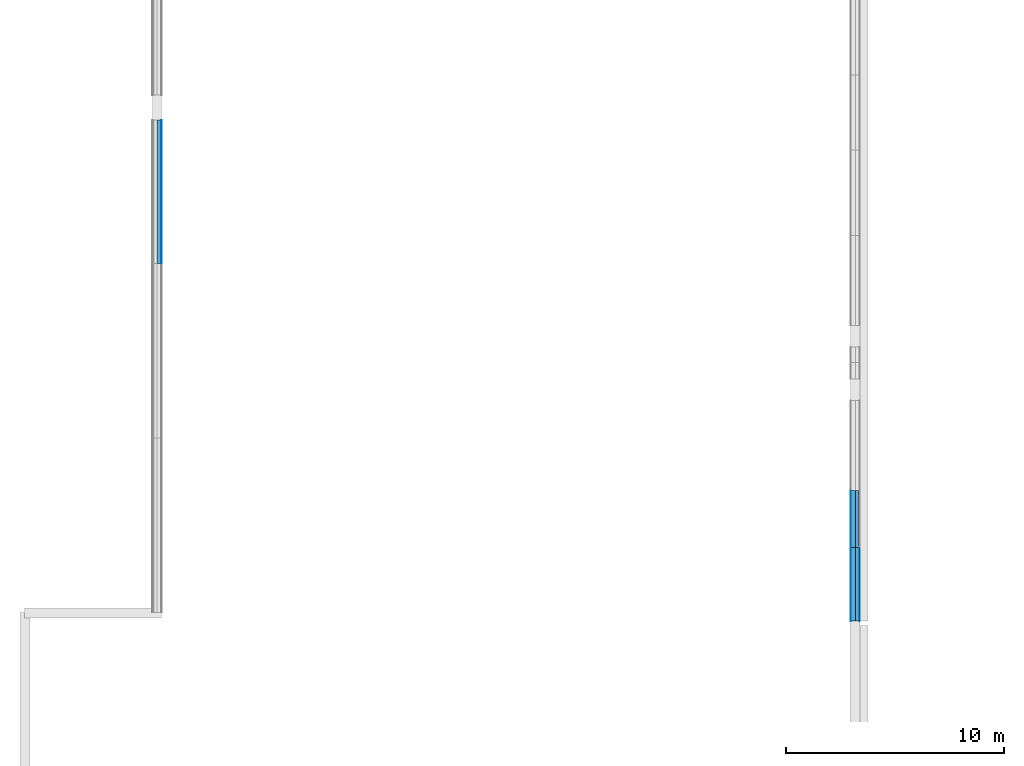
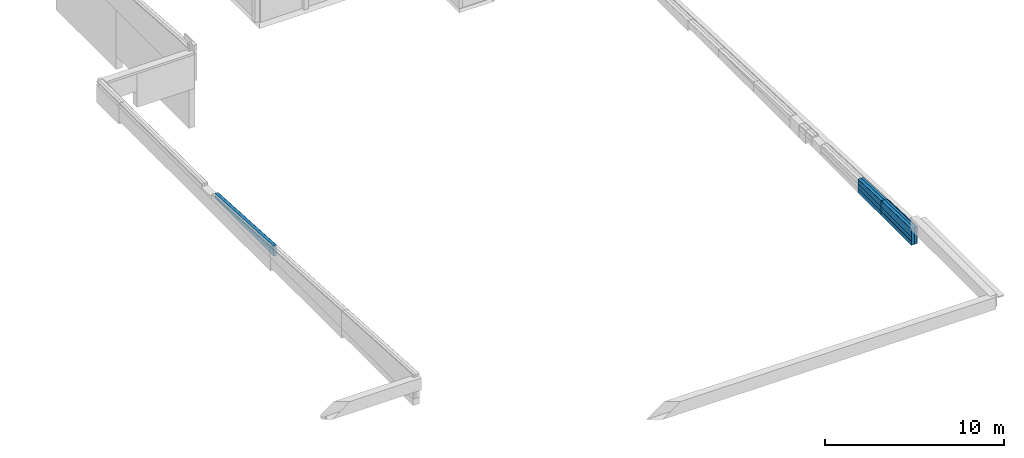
# One storey, part 7 of 17: 10 building element parts, 3 elements without a shape of their own.
"""IFC2X3 building model written with IfcOpenShell, lengths in millimetres."""

from ifc_helpers import new_model, entity, si_unit, converted_unit, derived_unit, money_unit, direction, frame, origin_with_axes, place, context, subcontext, project, spatial, polyline, outline, extrude, boolean, faceted_brep, material, type_object, element, aggregate, save


model = new_model("IFC2X3")

# Units and contexts
model_context = context("Model", 3, precision=0.01, world=origin_with_axes(), true_north=direction((0.0, 1.0)))
body_context = subcontext(model_context, "Body", "Model", "MODEL_VIEW")
ifc_project = project(units=[si_unit("LENGTHUNIT", "METRE", prefix="MILLI"), si_unit("AREAUNIT", "SQUARE_METRE"), si_unit("VOLUMEUNIT", "CUBIC_METRE"), converted_unit("PLANEANGLEUNIT", "DEGREE", entity("IfcPlaneAngleMeasure", 0.0174532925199), si_unit("PLANEANGLEUNIT", "RADIAN"), dimensions=[0, 0, 0, 0, 0, 0, 0]), si_unit("SOLIDANGLEUNIT", "STERADIAN"), money_unit("EUR"), converted_unit("TIMEUNIT", "Year", entity("IfcTimeMeasure", 31556926.0), si_unit("TIMEUNIT", "SECOND"), dimensions=[0, 0, 1, 0, 0, 0, 0]), si_unit("MASSUNIT", "GRAM", prefix="KILO"), si_unit("THERMODYNAMICTEMPERATUREUNIT", "DEGREE_CELSIUS"), si_unit("LUMINOUSINTENSITYUNIT", "LUMEN"), si_unit("ENERGYUNIT", "JOULE", prefix="MEGA"), derived_unit("THERMALCONDUCTANCEUNIT", [(si_unit("POWERUNIT", "WATT"), 1), (si_unit("LENGTHUNIT", "METRE"), -1), (si_unit("THERMODYNAMICTEMPERATUREUNIT", "KELVIN"), -1)]), derived_unit("SPECIFICHEATCAPACITYUNIT", [(si_unit("ENERGYUNIT", "JOULE"), 1), (si_unit("MASSUNIT", "GRAM", prefix="KILO"), -1), (si_unit("THERMODYNAMICTEMPERATUREUNIT", "KELVIN"), -1)]), derived_unit("MASSDENSITYUNIT", [(si_unit("MASSUNIT", "GRAM", prefix="KILO"), 1), (si_unit("VOLUMEUNIT", "CUBIC_METRE"), -1)])], contexts=[model_context])

# Site, building, storey
site_placement = place(None, origin_with_axes())
site = spatial("IfcSite", under=ifc_project, at=site_placement, Name="Puškini 31, Narva", CompositionType="ELEMENT")
building_placement = place(site_placement, origin_with_axes())
building = spatial("IfcBuilding", under=site, at=building_placement, Name="Narva Riigigümnaasium", CompositionType="ELEMENT")
storey_placement = place(building_placement, frame((0.0, 0.0, -6800.0), z_axis=(0.0, 0.0, 1.0), x_axis=(1.0, 0.0, 0.0)))
storey = spatial("IfcBuildingStorey", under=building, at=storey_placement, Name="0.korrus -6.8", CompositionType="ELEMENT", Elevation=-6800.0)

# Wall, building element parts
wall_type = type_object("IfcWallType", Name="G-VS-02 420", PredefinedType="NOTDEFINED")
wall_1_placement = place(storey_placement, frame((54200.000001, 159000.0, 4880.0), z_axis=(0.0, 0.0, 1.0), x_axis=(0.0, 1.0, 0.0)))
wall_1 = element("IfcWall", 1, at=wall_1_placement, inside=storey, type_object=wall_type, Name="Sisesein")
ifc_material_1 = material(Name="Salto-siseviimistlus")
building_element_part_1_placement = place(wall_1_placement, origin_with_axes())
building_element_part_1 = element("IfcBuildingElementPart", 2, at=building_element_part_1_placement, material=ifc_material_1, Name="Salto-siseviimistlus", context=body_context, shape_type="CSG", body=[
    boolean("DIFFERENCE", boolean("DIFFERENCE", boolean("DIFFERENCE", boolean("DIFFERENCE", boolean("DIFFERENCE", boolean("DIFFERENCE", extrude(outline(polyline([(0.0, 200.0), (3385.15127183, 200.0), (3385.15127183, 210.0), (0.0, 210.0), (0.0, 200.0)])), origin_with_axes(), (0.0, 0.0, 1.0), 1170.24353957), faceted_brep([(3385.15127183, 200.0, 590.0), (0.0, 200.0, 590.0), (0.0, 200.0, 290.0), (3385.15127183, 200.0, 290.0), (3385.15127183, 210.0, 590.0), (6.13368911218e-07, 210.0, 590.0), (6.13368911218e-07, 210.0, 290.0), (3385.15127183, 210.0, 290.0)], [[[0, 1, 2, 3]], [[1, 0, 4, 5]], [[1, 5, 6, 2]], [[7, 3, 2, 6]], [[4, 0, 3, 7]], [[5, 4, 7, 6]]])), faceted_brep([(0.0, 200.0, 1136.49486358), (3385.15127183, 200.0, 1006.91214492), (3385.15127183, 200.0, 1170.24353957), (0.0, 200.0, 1170.24353957), (3385.15127183, 210.0, 1006.91214492), (3.56692453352e-08, 210.0, 1136.49486357), (3385.15127183, 210.0, 1170.24353957), (0.0, 210.0, 1170.24353957)], [[[0, 1, 2, 3]], [[4, 1, 0, 5]], [[1, 4, 6, 2]], [[7, 3, 2, 6]], [[5, 0, 3, 7]], [[4, 5, 7, 6]]])), faceted_brep([(0.0, 0.0, 1136.49486358), (3385.15127183, 0.0, 1006.91214492), (3385.15127183, 0.0, 1170.24353957), (0.0, 0.0, 1170.24353957), (3385.15127183, 200.0, 1006.91214492), (0.0, 200.0, 1136.49486358), (3385.15127183, 200.0, 1170.24353957), (0.0, 200.0, 1170.24353957)], [[[0, 1, 2, 3]], [[4, 1, 0, 5]], [[1, 4, 6, 2]], [[7, 3, 2, 6]], [[5, 0, 3, 7]], [[4, 5, 7, 6]]])), faceted_brep([(0.0, -150.0, 1136.49486358), (3385.15127183, -150.0, 1006.91214492), (3385.15127183, -150.0, 1170.24353957), (0.0, -150.0, 1170.24353957), (3385.15127183, 0.0, 1006.91214492), (0.0, 0.0, 1136.49486358), (3385.15127183, 0.0, 1170.24353957), (0.0, 0.0, 1170.24353957)], [[[0, 1, 2, 3]], [[4, 1, 0, 5]], [[1, 4, 6, 2]], [[7, 3, 2, 6]], [[5, 0, 3, 7]], [[4, 5, 7, 6]]])), faceted_brep([(0.0, -200.0, 1136.49486358), (3385.15127183, -200.0, 1006.91214492), (3385.15127183, -200.0, 1170.24353957), (0.0, -200.0, 1170.24353957), (3385.15127183, -150.0, 1006.91214492), (0.0, -150.0, 1136.49486358), (3385.15127183, -150.0, 1170.24353957), (0.0, -150.0, 1170.24353957)], [[[0, 1, 2, 3]], [[4, 1, 0, 5]], [[1, 4, 6, 2]], [[7, 3, 2, 6]], [[5, 0, 3, 7]], [[4, 5, 7, 6]]])), faceted_brep([(0.0, -210.0, 1136.49486358), (3385.15127183, -210.0, 1006.91214492), (3385.15127183, -210.0, 1170.24353957), (0.0, -210.0, 1170.24353957), (3385.15127183, -200.0, 1006.91214492), (0.0, -200.0, 1136.49486358), (3385.15127183, -200.0, 1170.24353957), (0.0, -200.0, 1170.24353957)], [[[0, 1, 2, 3]], [[4, 1, 0, 5]], [[1, 4, 6, 2]], [[7, 3, 2, 6]], [[5, 0, 3, 7]], [[4, 5, 7, 6]]])),
])
ifc_material_2 = material(Name="Betoon element")
building_element_part_2_placement = place(wall_1_placement, origin_with_axes())
building_element_part_2 = element("IfcBuildingElementPart", 3, at=building_element_part_2_placement, material=ifc_material_2, Name="Betoon element", context=body_context, shape_type="CSG", body=[
    boolean("DIFFERENCE", boolean("DIFFERENCE", boolean("DIFFERENCE", boolean("DIFFERENCE", boolean("DIFFERENCE", boolean("DIFFERENCE", extrude(outline(polyline([(0.0, 0.0), (3385.15127183, 0.0), (3385.15127183, 200.0), (0.0, 200.0), (0.0, 0.0)])), origin_with_axes(), (0.0, 0.0, 1.0), 1170.24353957), faceted_brep([(3385.15127183, 200.0, 590.0), (0.0, 200.0, 590.0), (0.0, 200.0, 290.0), (3385.15127183, 200.0, 290.0), (3385.15127183, 210.0, 590.0), (6.13368911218e-07, 210.0, 590.0), (6.13368911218e-07, 210.0, 290.0), (3385.15127183, 210.0, 290.0)], [[[0, 1, 2, 3]], [[1, 0, 4, 5]], [[1, 5, 6, 2]], [[7, 3, 2, 6]], [[4, 0, 3, 7]], [[5, 4, 7, 6]]])), faceted_brep([(0.0, 200.0, 1136.49486358), (3385.15127183, 200.0, 1006.91214492), (3385.15127183, 200.0, 1170.24353957), (0.0, 200.0, 1170.24353957), (3385.15127183, 210.0, 1006.91214492), (3.56692453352e-08, 210.0, 1136.49486357), (3385.15127183, 210.0, 1170.24353957), (0.0, 210.0, 1170.24353957)], [[[0, 1, 2, 3]], [[4, 1, 0, 5]], [[1, 4, 6, 2]], [[7, 3, 2, 6]], [[5, 0, 3, 7]], [[4, 5, 7, 6]]])), faceted_brep([(0.0, 0.0, 1136.49486358), (3385.15127183, 0.0, 1006.91214492), (3385.15127183, 0.0, 1170.24353957), (0.0, 0.0, 1170.24353957), (3385.15127183, 200.0, 1006.91214492), (0.0, 200.0, 1136.49486358), (3385.15127183, 200.0, 1170.24353957), (0.0, 200.0, 1170.24353957)], [[[0, 1, 2, 3]], [[4, 1, 0, 5]], [[1, 4, 6, 2]], [[7, 3, 2, 6]], [[5, 0, 3, 7]], [[4, 5, 7, 6]]])), faceted_brep([(0.0, -150.0, 1136.49486358), (3385.15127183, -150.0, 1006.91214492), (3385.15127183, -150.0, 1170.24353957), (0.0, -150.0, 1170.24353957), (3385.15127183, 0.0, 1006.91214492), (0.0, 0.0, 1136.49486358), (3385.15127183, 0.0, 1170.24353957), (0.0, 0.0, 1170.24353957)], [[[0, 1, 2, 3]], [[4, 1, 0, 5]], [[1, 4, 6, 2]], [[7, 3, 2, 6]], [[5, 0, 3, 7]], [[4, 5, 7, 6]]])), faceted_brep([(0.0, -200.0, 1136.49486358), (3385.15127183, -200.0, 1006.91214492), (3385.15127183, -200.0, 1170.24353957), (0.0, -200.0, 1170.24353957), (3385.15127183, -150.0, 1006.91214492), (0.0, -150.0, 1136.49486358), (3385.15127183, -150.0, 1170.24353957), (0.0, -150.0, 1170.24353957)], [[[0, 1, 2, 3]], [[4, 1, 0, 5]], [[1, 4, 6, 2]], [[7, 3, 2, 6]], [[5, 0, 3, 7]], [[4, 5, 7, 6]]])), faceted_brep([(0.0, -210.0, 1136.49486358), (3385.15127183, -210.0, 1006.91214492), (3385.15127183, -210.0, 1170.24353957), (0.0, -210.0, 1170.24353957), (3385.15127183, -200.0, 1006.91214492), (0.0, -200.0, 1136.49486358), (3385.15127183, -200.0, 1170.24353957), (0.0, -200.0, 1170.24353957)], [[[0, 1, 2, 3]], [[4, 1, 0, 5]], [[1, 4, 6, 2]], [[7, 3, 2, 6]], [[5, 0, 3, 7]], [[4, 5, 7, 6]]])),
])
ifc_material_3 = material(Name="Salto-PIR soojustus")
building_element_part_3_placement = place(wall_1_placement, origin_with_axes())
building_element_part_3 = element("IfcBuildingElementPart", 4, at=building_element_part_3_placement, material=ifc_material_3, Name="Salto-PIR soojustus", context=body_context, shape_type="CSG", body=[
    boolean("DIFFERENCE", boolean("DIFFERENCE", boolean("DIFFERENCE", boolean("DIFFERENCE", boolean("DIFFERENCE", boolean("DIFFERENCE", extrude(outline(polyline([(0.0, -150.0), (3385.15127183, -150.0), (3385.15127183, 0.0), (0.0, 0.0), (0.0, -150.0)])), origin_with_axes(), (0.0, 0.0, 1.0), 1170.24353957), faceted_brep([(3385.15127183, 200.0, 590.0), (0.0, 200.0, 590.0), (0.0, 200.0, 290.0), (3385.15127183, 200.0, 290.0), (3385.15127183, 210.0, 590.0), (6.13368911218e-07, 210.0, 590.0), (6.13368911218e-07, 210.0, 290.0), (3385.15127183, 210.0, 290.0)], [[[0, 1, 2, 3]], [[1, 0, 4, 5]], [[1, 5, 6, 2]], [[7, 3, 2, 6]], [[4, 0, 3, 7]], [[5, 4, 7, 6]]])), faceted_brep([(0.0, 200.0, 1136.49486358), (3385.15127183, 200.0, 1006.91214492), (3385.15127183, 200.0, 1170.24353957), (0.0, 200.0, 1170.24353957), (3385.15127183, 210.0, 1006.91214492), (3.56692453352e-08, 210.0, 1136.49486357), (3385.15127183, 210.0, 1170.24353957), (0.0, 210.0, 1170.24353957)], [[[0, 1, 2, 3]], [[4, 1, 0, 5]], [[1, 4, 6, 2]], [[7, 3, 2, 6]], [[5, 0, 3, 7]], [[4, 5, 7, 6]]])), faceted_brep([(0.0, 0.0, 1136.49486358), (3385.15127183, 0.0, 1006.91214492), (3385.15127183, 0.0, 1170.24353957), (0.0, 0.0, 1170.24353957), (3385.15127183, 200.0, 1006.91214492), (0.0, 200.0, 1136.49486358), (3385.15127183, 200.0, 1170.24353957), (0.0, 200.0, 1170.24353957)], [[[0, 1, 2, 3]], [[4, 1, 0, 5]], [[1, 4, 6, 2]], [[7, 3, 2, 6]], [[5, 0, 3, 7]], [[4, 5, 7, 6]]])), faceted_brep([(0.0, -150.0, 1136.49486358), (3385.15127183, -150.0, 1006.91214492), (3385.15127183, -150.0, 1170.24353957), (0.0, -150.0, 1170.24353957), (3385.15127183, 0.0, 1006.91214492), (0.0, 0.0, 1136.49486358), (3385.15127183, 0.0, 1170.24353957), (0.0, 0.0, 1170.24353957)], [[[0, 1, 2, 3]], [[4, 1, 0, 5]], [[1, 4, 6, 2]], [[7, 3, 2, 6]], [[5, 0, 3, 7]], [[4, 5, 7, 6]]])), faceted_brep([(0.0, -200.0, 1136.49486358), (3385.15127183, -200.0, 1006.91214492), (3385.15127183, -200.0, 1170.24353957), (0.0, -200.0, 1170.24353957), (3385.15127183, -150.0, 1006.91214492), (0.0, -150.0, 1136.49486358), (3385.15127183, -150.0, 1170.24353957), (0.0, -150.0, 1170.24353957)], [[[0, 1, 2, 3]], [[4, 1, 0, 5]], [[1, 4, 6, 2]], [[7, 3, 2, 6]], [[5, 0, 3, 7]], [[4, 5, 7, 6]]])), faceted_brep([(0.0, -210.0, 1136.49486358), (3385.15127183, -210.0, 1006.91214492), (3385.15127183, -210.0, 1170.24353957), (0.0, -210.0, 1170.24353957), (3385.15127183, -200.0, 1006.91214492), (0.0, -200.0, 1136.49486358), (3385.15127183, -200.0, 1170.24353957), (0.0, -200.0, 1170.24353957)], [[[0, 1, 2, 3]], [[4, 1, 0, 5]], [[1, 4, 6, 2]], [[7, 3, 2, 6]], [[5, 0, 3, 7]], [[4, 5, 7, 6]]])),
])
building_element_part_4_placement = place(wall_1_placement, origin_with_axes())
building_element_part_4 = element("IfcBuildingElementPart", 5, at=building_element_part_4_placement, material=ifc_material_3, Name="Salto-PIR soojustus", context=body_context, shape_type="CSG", body=[
    boolean("DIFFERENCE", boolean("DIFFERENCE", boolean("DIFFERENCE", boolean("DIFFERENCE", boolean("DIFFERENCE", boolean("DIFFERENCE", extrude(outline(polyline([(0.0, -200.0), (3385.15127183, -200.0), (3385.15127183, -150.0), (0.0, -150.0), (0.0, -200.0)])), origin_with_axes(), (0.0, 0.0, 1.0), 1170.24353957), faceted_brep([(3385.15127183, 200.0, 590.0), (0.0, 200.0, 590.0), (0.0, 200.0, 290.0), (3385.15127183, 200.0, 290.0), (3385.15127183, 210.0, 590.0), (6.13368911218e-07, 210.0, 590.0), (6.13368911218e-07, 210.0, 290.0), (3385.15127183, 210.0, 290.0)], [[[0, 1, 2, 3]], [[1, 0, 4, 5]], [[1, 5, 6, 2]], [[7, 3, 2, 6]], [[4, 0, 3, 7]], [[5, 4, 7, 6]]])), faceted_brep([(0.0, 200.0, 1136.49486358), (3385.15127183, 200.0, 1006.91214492), (3385.15127183, 200.0, 1170.24353957), (0.0, 200.0, 1170.24353957), (3385.15127183, 210.0, 1006.91214492), (3.56692453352e-08, 210.0, 1136.49486357), (3385.15127183, 210.0, 1170.24353957), (0.0, 210.0, 1170.24353957)], [[[0, 1, 2, 3]], [[4, 1, 0, 5]], [[1, 4, 6, 2]], [[7, 3, 2, 6]], [[5, 0, 3, 7]], [[4, 5, 7, 6]]])), faceted_brep([(0.0, 0.0, 1136.49486358), (3385.15127183, 0.0, 1006.91214492), (3385.15127183, 0.0, 1170.24353957), (0.0, 0.0, 1170.24353957), (3385.15127183, 200.0, 1006.91214492), (0.0, 200.0, 1136.49486358), (3385.15127183, 200.0, 1170.24353957), (0.0, 200.0, 1170.24353957)], [[[0, 1, 2, 3]], [[4, 1, 0, 5]], [[1, 4, 6, 2]], [[7, 3, 2, 6]], [[5, 0, 3, 7]], [[4, 5, 7, 6]]])), faceted_brep([(0.0, -150.0, 1136.49486358), (3385.15127183, -150.0, 1006.91214492), (3385.15127183, -150.0, 1170.24353957), (0.0, -150.0, 1170.24353957), (3385.15127183, 0.0, 1006.91214492), (0.0, 0.0, 1136.49486358), (3385.15127183, 0.0, 1170.24353957), (0.0, 0.0, 1170.24353957)], [[[0, 1, 2, 3]], [[4, 1, 0, 5]], [[1, 4, 6, 2]], [[7, 3, 2, 6]], [[5, 0, 3, 7]], [[4, 5, 7, 6]]])), faceted_brep([(0.0, -200.0, 1136.49486358), (3385.15127183, -200.0, 1006.91214492), (3385.15127183, -200.0, 1170.24353957), (0.0, -200.0, 1170.24353957), (3385.15127183, -150.0, 1006.91214492), (0.0, -150.0, 1136.49486358), (3385.15127183, -150.0, 1170.24353957), (0.0, -150.0, 1170.24353957)], [[[0, 1, 2, 3]], [[4, 1, 0, 5]], [[1, 4, 6, 2]], [[7, 3, 2, 6]], [[5, 0, 3, 7]], [[4, 5, 7, 6]]])), faceted_brep([(0.0, -210.0, 1136.49486358), (3385.15127183, -210.0, 1006.91214492), (3385.15127183, -210.0, 1170.24353957), (0.0, -210.0, 1170.24353957), (3385.15127183, -200.0, 1006.91214492), (0.0, -200.0, 1136.49486358), (3385.15127183, -200.0, 1170.24353957), (0.0, -200.0, 1170.24353957)], [[[0, 1, 2, 3]], [[4, 1, 0, 5]], [[1, 4, 6, 2]], [[7, 3, 2, 6]], [[5, 0, 3, 7]], [[4, 5, 7, 6]]])),
])
ifc_material_4 = material(Name="Krohv")
building_element_part_5_placement = place(wall_1_placement, origin_with_axes())
building_element_part_5 = element("IfcBuildingElementPart", 6, at=building_element_part_5_placement, material=ifc_material_4, Name="Krohv", context=body_context, shape_type="CSG", body=[
    boolean("DIFFERENCE", boolean("DIFFERENCE", boolean("DIFFERENCE", boolean("DIFFERENCE", boolean("DIFFERENCE", boolean("DIFFERENCE", extrude(outline(polyline([(0.0, -210.0), (3385.15127183, -210.0), (3385.15127183, -200.0), (0.0, -200.0), (0.0, -210.0)])), origin_with_axes(), (0.0, 0.0, 1.0), 1170.24353957), faceted_brep([(3385.15127183, 200.0, 590.0), (0.0, 200.0, 590.0), (0.0, 200.0, 290.0), (3385.15127183, 200.0, 290.0), (3385.15127183, 210.0, 590.0), (6.13368911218e-07, 210.0, 590.0), (6.13368911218e-07, 210.0, 290.0), (3385.15127183, 210.0, 290.0)], [[[0, 1, 2, 3]], [[1, 0, 4, 5]], [[1, 5, 6, 2]], [[7, 3, 2, 6]], [[4, 0, 3, 7]], [[5, 4, 7, 6]]])), faceted_brep([(0.0, 200.0, 1136.49486358), (3385.15127183, 200.0, 1006.91214492), (3385.15127183, 200.0, 1170.24353957), (0.0, 200.0, 1170.24353957), (3385.15127183, 210.0, 1006.91214492), (3.56692453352e-08, 210.0, 1136.49486357), (3385.15127183, 210.0, 1170.24353957), (0.0, 210.0, 1170.24353957)], [[[0, 1, 2, 3]], [[4, 1, 0, 5]], [[1, 4, 6, 2]], [[7, 3, 2, 6]], [[5, 0, 3, 7]], [[4, 5, 7, 6]]])), faceted_brep([(0.0, 0.0, 1136.49486358), (3385.15127183, 0.0, 1006.91214492), (3385.15127183, 0.0, 1170.24353957), (0.0, 0.0, 1170.24353957), (3385.15127183, 200.0, 1006.91214492), (0.0, 200.0, 1136.49486358), (3385.15127183, 200.0, 1170.24353957), (0.0, 200.0, 1170.24353957)], [[[0, 1, 2, 3]], [[4, 1, 0, 5]], [[1, 4, 6, 2]], [[7, 3, 2, 6]], [[5, 0, 3, 7]], [[4, 5, 7, 6]]])), faceted_brep([(0.0, -150.0, 1136.49486358), (3385.15127183, -150.0, 1006.91214492), (3385.15127183, -150.0, 1170.24353957), (0.0, -150.0, 1170.24353957), (3385.15127183, 0.0, 1006.91214492), (0.0, 0.0, 1136.49486358), (3385.15127183, 0.0, 1170.24353957), (0.0, 0.0, 1170.24353957)], [[[0, 1, 2, 3]], [[4, 1, 0, 5]], [[1, 4, 6, 2]], [[7, 3, 2, 6]], [[5, 0, 3, 7]], [[4, 5, 7, 6]]])), faceted_brep([(0.0, -200.0, 1136.49486358), (3385.15127183, -200.0, 1006.91214492), (3385.15127183, -200.0, 1170.24353957), (0.0, -200.0, 1170.24353957), (3385.15127183, -150.0, 1006.91214492), (0.0, -150.0, 1136.49486358), (3385.15127183, -150.0, 1170.24353957), (0.0, -150.0, 1170.24353957)], [[[0, 1, 2, 3]], [[4, 1, 0, 5]], [[1, 4, 6, 2]], [[7, 3, 2, 6]], [[5, 0, 3, 7]], [[4, 5, 7, 6]]])), faceted_brep([(0.0, -210.0, 1136.49486358), (3385.15127183, -210.0, 1006.91214492), (3385.15127183, -210.0, 1170.24353957), (0.0, -210.0, 1170.24353957), (3385.15127183, -200.0, 1006.91214492), (0.0, -200.0, 1136.49486358), (3385.15127183, -200.0, 1170.24353957), (0.0, -200.0, 1170.24353957)], [[[0, 1, 2, 3]], [[4, 1, 0, 5]], [[1, 4, 6, 2]], [[7, 3, 2, 6]], [[5, 0, 3, 7]], [[4, 5, 7, 6]]])),
])
aggregate(wall_1, [building_element_part_1, building_element_part_2, building_element_part_3, building_element_part_4, building_element_part_5])

wall_2_placement = place(storey_placement, frame((54200.000001, 164985.151272, 4880.0), z_axis=(0.0, 0.0, 1.0), x_axis=(0.0, -1.0, 0.0)))
wall_2 = element("IfcWall", 7, at=wall_2_placement, inside=storey, type_object=wall_type, Name="Sisesein")
building_element_part_6_placement = place(wall_2_placement, origin_with_axes())
building_element_part_6 = element("IfcBuildingElementPart", 8, at=building_element_part_6_placement, material=ifc_material_1, Name="Salto-siseviimistlus", context=body_context, shape_type="CSG", body=[
    boolean("DIFFERENCE", boolean("DIFFERENCE", boolean("DIFFERENCE", boolean("DIFFERENCE", boolean("DIFFERENCE", boolean("DIFFERENCE", extrude(outline(polyline([(0.0, -210.0), (2600.0, -210.0), (2600.0, -200.0), (0.0, -200.0), (0.0, -210.0)])), origin_with_axes(), (0.0, 0.0, 1.0), 1045.10193144), faceted_brep([(0.0, -200.0, 590.0), (2600.0, -200.0, 590.0), (2600.0, -200.0, 290.0), (0.0, -200.0, 290.0), (0.0, -210.0, 590.0), (2600.0, -210.0, 590.0), (2600.0, -210.0, 290.0), (0.0, -210.0, 290.0)], [[[0, 1, 2, 3]], [[1, 0, 4, 5]], [[1, 5, 6, 2]], [[7, 3, 2, 6]], [[4, 0, 3, 7]], [[5, 4, 7, 6]]])), faceted_brep([(2600.0, -200.0, 1006.91214492), (0.0, -200.0, 907.384814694), (0.0, -200.0, 1045.10193144), (2600.0, -200.0, 1045.10193144), (0.0, -210.0, 907.384814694), (2600.0, -210.0, 1006.91214492), (0.0, -210.0, 1045.10193144), (2600.0, -210.0, 1045.10193144)], [[[0, 1, 2, 3]], [[4, 1, 0, 5]], [[1, 4, 6, 2]], [[2, 6, 7, 3]], [[5, 0, 3, 7]], [[4, 5, 7, 6]]])), faceted_brep([(2600.0, 0.0, 1006.91214492), (0.0, 0.0, 907.384814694), (0.0, 0.0, 1045.10193144), (2600.0, 0.0, 1045.10193144), (0.0, -200.0, 907.384814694), (2600.0, -200.0, 1006.91214492), (0.0, -200.0, 1045.10193144), (2600.0, -200.0, 1045.10193144)], [[[0, 1, 2, 3]], [[4, 1, 0, 5]], [[1, 4, 6, 2]], [[2, 6, 7, 3]], [[5, 0, 3, 7]], [[4, 5, 7, 6]]])), faceted_brep([(2600.0, 150.0, 1006.91214492), (0.0, 150.0, 907.384814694), (0.0, 150.0, 1045.10193144), (2600.0, 150.0, 1045.10193144), (0.0, 0.0, 907.384814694), (2600.0, 0.0, 1006.91214492), (0.0, 0.0, 1045.10193144), (2600.0, 0.0, 1045.10193144)], [[[0, 1, 2, 3]], [[4, 1, 0, 5]], [[1, 4, 6, 2]], [[2, 6, 7, 3]], [[5, 0, 3, 7]], [[4, 5, 7, 6]]])), faceted_brep([(2600.0, 200.0, 1006.91214492), (0.0, 200.0, 907.384814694), (0.0, 200.0, 1045.10193144), (2600.0, 200.0, 1045.10193144), (0.0, 150.0, 907.384814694), (2600.0, 150.0, 1006.91214492), (0.0, 150.0, 1045.10193144), (2600.0, 150.0, 1045.10193144)], [[[0, 1, 2, 3]], [[4, 1, 0, 5]], [[1, 4, 6, 2]], [[2, 6, 7, 3]], [[5, 0, 3, 7]], [[4, 5, 7, 6]]])), faceted_brep([(2600.0, 210.0, 1006.91214492), (0.0, 210.0, 907.384814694), (0.0, 210.0, 1045.10193144), (2600.0, 210.0, 1045.10193144), (0.0, 200.0, 907.384814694), (2600.0, 200.0, 1006.91214492), (0.0, 200.0, 1045.10193144), (2600.0, 200.0, 1045.10193144)], [[[0, 1, 2, 3]], [[4, 1, 0, 5]], [[1, 4, 6, 2]], [[2, 6, 7, 3]], [[5, 0, 3, 7]], [[4, 5, 7, 6]]])),
])
building_element_part_7_placement = place(wall_2_placement, origin_with_axes())
building_element_part_7 = element("IfcBuildingElementPart", 9, at=building_element_part_7_placement, material=ifc_material_2, Name="Betoon element", context=body_context, shape_type="CSG", body=[
    boolean("DIFFERENCE", boolean("DIFFERENCE", boolean("DIFFERENCE", boolean("DIFFERENCE", boolean("DIFFERENCE", boolean("DIFFERENCE", extrude(outline(polyline([(0.0, -200.0), (2600.0, -200.0), (2600.0, 0.0), (0.0, 0.0), (0.0, -200.0)])), origin_with_axes(), (0.0, 0.0, 1.0), 1045.10193144), faceted_brep([(0.0, -200.0, 590.0), (2600.0, -200.0, 590.0), (2600.0, -200.0, 290.0), (0.0, -200.0, 290.0), (0.0, -210.0, 590.0), (2600.0, -210.0, 590.0), (2600.0, -210.0, 290.0), (0.0, -210.0, 290.0)], [[[0, 1, 2, 3]], [[1, 0, 4, 5]], [[1, 5, 6, 2]], [[7, 3, 2, 6]], [[4, 0, 3, 7]], [[5, 4, 7, 6]]])), faceted_brep([(2600.0, -200.0, 1006.91214492), (0.0, -200.0, 907.384814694), (0.0, -200.0, 1045.10193144), (2600.0, -200.0, 1045.10193144), (0.0, -210.0, 907.384814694), (2600.0, -210.0, 1006.91214492), (0.0, -210.0, 1045.10193144), (2600.0, -210.0, 1045.10193144)], [[[0, 1, 2, 3]], [[4, 1, 0, 5]], [[1, 4, 6, 2]], [[2, 6, 7, 3]], [[5, 0, 3, 7]], [[4, 5, 7, 6]]])), faceted_brep([(2600.0, 0.0, 1006.91214492), (0.0, 0.0, 907.384814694), (0.0, 0.0, 1045.10193144), (2600.0, 0.0, 1045.10193144), (0.0, -200.0, 907.384814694), (2600.0, -200.0, 1006.91214492), (0.0, -200.0, 1045.10193144), (2600.0, -200.0, 1045.10193144)], [[[0, 1, 2, 3]], [[4, 1, 0, 5]], [[1, 4, 6, 2]], [[2, 6, 7, 3]], [[5, 0, 3, 7]], [[4, 5, 7, 6]]])), faceted_brep([(2600.0, 150.0, 1006.91214492), (0.0, 150.0, 907.384814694), (0.0, 150.0, 1045.10193144), (2600.0, 150.0, 1045.10193144), (0.0, 0.0, 907.384814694), (2600.0, 0.0, 1006.91214492), (0.0, 0.0, 1045.10193144), (2600.0, 0.0, 1045.10193144)], [[[0, 1, 2, 3]], [[4, 1, 0, 5]], [[1, 4, 6, 2]], [[2, 6, 7, 3]], [[5, 0, 3, 7]], [[4, 5, 7, 6]]])), faceted_brep([(2600.0, 200.0, 1006.91214492), (0.0, 200.0, 907.384814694), (0.0, 200.0, 1045.10193144), (2600.0, 200.0, 1045.10193144), (0.0, 150.0, 907.384814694), (2600.0, 150.0, 1006.91214492), (0.0, 150.0, 1045.10193144), (2600.0, 150.0, 1045.10193144)], [[[0, 1, 2, 3]], [[4, 1, 0, 5]], [[1, 4, 6, 2]], [[2, 6, 7, 3]], [[5, 0, 3, 7]], [[4, 5, 7, 6]]])), faceted_brep([(2600.0, 210.0, 1006.91214492), (0.0, 210.0, 907.384814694), (0.0, 210.0, 1045.10193144), (2600.0, 210.0, 1045.10193144), (0.0, 200.0, 907.384814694), (2600.0, 200.0, 1006.91214492), (0.0, 200.0, 1045.10193144), (2600.0, 200.0, 1045.10193144)], [[[0, 1, 2, 3]], [[4, 1, 0, 5]], [[1, 4, 6, 2]], [[2, 6, 7, 3]], [[5, 0, 3, 7]], [[4, 5, 7, 6]]])),
])
building_element_part_8_placement = place(wall_2_placement, origin_with_axes())
building_element_part_8 = element("IfcBuildingElementPart", 10, at=building_element_part_8_placement, material=ifc_material_3, Name="Salto-PIR soojustus", context=body_context, shape_type="CSG", body=[
    boolean("DIFFERENCE", boolean("DIFFERENCE", boolean("DIFFERENCE", boolean("DIFFERENCE", boolean("DIFFERENCE", boolean("DIFFERENCE", extrude(outline(polyline([(0.0, 0.0), (2600.0, 0.0), (2600.0, 150.0), (0.0, 150.0), (0.0, 0.0)])), origin_with_axes(), (0.0, 0.0, 1.0), 1045.10193144), faceted_brep([(0.0, -200.0, 590.0), (2600.0, -200.0, 590.0), (2600.0, -200.0, 290.0), (0.0, -200.0, 290.0), (0.0, -210.0, 590.0), (2600.0, -210.0, 590.0), (2600.0, -210.0, 290.0), (0.0, -210.0, 290.0)], [[[0, 1, 2, 3]], [[1, 0, 4, 5]], [[1, 5, 6, 2]], [[7, 3, 2, 6]], [[4, 0, 3, 7]], [[5, 4, 7, 6]]])), faceted_brep([(2600.0, -200.0, 1006.91214492), (0.0, -200.0, 907.384814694), (0.0, -200.0, 1045.10193144), (2600.0, -200.0, 1045.10193144), (0.0, -210.0, 907.384814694), (2600.0, -210.0, 1006.91214492), (0.0, -210.0, 1045.10193144), (2600.0, -210.0, 1045.10193144)], [[[0, 1, 2, 3]], [[4, 1, 0, 5]], [[1, 4, 6, 2]], [[2, 6, 7, 3]], [[5, 0, 3, 7]], [[4, 5, 7, 6]]])), faceted_brep([(2600.0, 0.0, 1006.91214492), (0.0, 0.0, 907.384814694), (0.0, 0.0, 1045.10193144), (2600.0, 0.0, 1045.10193144), (0.0, -200.0, 907.384814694), (2600.0, -200.0, 1006.91214492), (0.0, -200.0, 1045.10193144), (2600.0, -200.0, 1045.10193144)], [[[0, 1, 2, 3]], [[4, 1, 0, 5]], [[1, 4, 6, 2]], [[2, 6, 7, 3]], [[5, 0, 3, 7]], [[4, 5, 7, 6]]])), faceted_brep([(2600.0, 150.0, 1006.91214492), (0.0, 150.0, 907.384814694), (0.0, 150.0, 1045.10193144), (2600.0, 150.0, 1045.10193144), (0.0, 0.0, 907.384814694), (2600.0, 0.0, 1006.91214492), (0.0, 0.0, 1045.10193144), (2600.0, 0.0, 1045.10193144)], [[[0, 1, 2, 3]], [[4, 1, 0, 5]], [[1, 4, 6, 2]], [[2, 6, 7, 3]], [[5, 0, 3, 7]], [[4, 5, 7, 6]]])), faceted_brep([(2600.0, 200.0, 1006.91214492), (0.0, 200.0, 907.384814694), (0.0, 200.0, 1045.10193144), (2600.0, 200.0, 1045.10193144), (0.0, 150.0, 907.384814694), (2600.0, 150.0, 1006.91214492), (0.0, 150.0, 1045.10193144), (2600.0, 150.0, 1045.10193144)], [[[0, 1, 2, 3]], [[4, 1, 0, 5]], [[1, 4, 6, 2]], [[2, 6, 7, 3]], [[5, 0, 3, 7]], [[4, 5, 7, 6]]])), faceted_brep([(2600.0, 210.0, 1006.91214492), (0.0, 210.0, 907.384814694), (0.0, 210.0, 1045.10193144), (2600.0, 210.0, 1045.10193144), (0.0, 200.0, 907.384814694), (2600.0, 200.0, 1006.91214492), (0.0, 200.0, 1045.10193144), (2600.0, 200.0, 1045.10193144)], [[[0, 1, 2, 3]], [[4, 1, 0, 5]], [[1, 4, 6, 2]], [[2, 6, 7, 3]], [[5, 0, 3, 7]], [[4, 5, 7, 6]]])),
])
aggregate(wall_2, [building_element_part_6, building_element_part_7, building_element_part_8])

wall_3_placement = place(storey_placement, frame((22200.0, 181960.149991, 5330.0), z_axis=(0.0, 0.0, 1.0), x_axis=(0.0, -1.0, 0.0)))
wall_3 = element("IfcWall", 11, at=wall_3_placement, inside=storey, type_object=wall_type, Name="Sisesein")
building_element_part_9_placement = place(wall_3_placement, origin_with_axes())
building_element_part_9 = element("IfcBuildingElementPart", 12, at=building_element_part_9_placement, material=ifc_material_1, Name="Salto-siseviimistlus", context=body_context, shape_type="CSG", body=[
    boolean("DIFFERENCE", boolean("DIFFERENCE", boolean("DIFFERENCE", boolean("DIFFERENCE", boolean("DIFFERENCE", boolean("DIFFERENCE", extrude(outline(polyline([(0.0, 200.0), (6560.14999143, 200.0), (6560.14999143, 210.0), (0.0, 210.0), (0.0, 200.0)])), origin_with_axes(), (0.0, 0.0, 1.0), 1200.0), faceted_brep([(0.0, 200.0, 140.0), (0.0, 210.0, 140.0), (0.0, 210.0, 0.0), (0.0, 200.0, 0.0), (3670.14998109, 210.0, 140.0), (3670.14998109, 200.0, 140.0), (3670.14998109, 210.0, 150.0), (6560.14999143, 210.0, 150.0), (6560.14999143, 210.0, 0.0), (6560.14999143, 200.0, 0.0), (6560.14999143, 200.0, 150.0), (3670.14998109, 200.0, 150.0)], [[[0, 1, 2, 3]], [[4, 1, 0, 5]], [[6, 7, 8, 2, 1, 4]], [[9, 3, 2, 8]], [[5, 0, 3, 9, 10, 11]], [[6, 4, 5, 11]], [[7, 6, 11, 10]], [[7, 10, 9, 8]]])), faceted_brep([(6560.14999143, 210.0, 704.771225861), (0.0, 210.0, 324.423502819), (0.0, 210.0, 1200.0), (6560.14999143, 210.0, 1200.0), (0.0, 200.0, 324.423502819), (6560.14999143, 200.0, 704.771225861), (0.0, 200.0, 1200.0), (6560.14999143, 200.0, 1200.0)], [[[0, 1, 2, 3]], [[4, 1, 0, 5]], [[1, 4, 6, 2]], [[2, 6, 7, 3]], [[5, 0, 3, 7]], [[4, 5, 7, 6]]])), faceted_brep([(6560.14999143, 200.0, 704.771225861), (0.0, 200.0, 324.423502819), (0.0, 200.0, 1200.0), (6560.14999143, 200.0, 1200.0), (0.0, 0.0, 324.423502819), (6560.14999143, 0.0, 704.771225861), (0.0, 0.0, 1200.0), (6560.14999143, 0.0, 1200.0)], [[[0, 1, 2, 3]], [[4, 1, 0, 5]], [[1, 4, 6, 2]], [[2, 6, 7, 3]], [[5, 0, 3, 7]], [[4, 5, 7, 6]]])), faceted_brep([(6560.14999143, 0.0, 704.771225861), (0.0, 0.0, 324.423502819), (0.0, 0.0, 1200.0), (6560.14999143, 0.0, 1200.0), (0.0, -150.0, 324.423502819), (6560.14999143, -150.0, 704.771225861), (0.0, -150.0, 1200.0), (6560.14999143, -150.0, 1200.0)], [[[0, 1, 2, 3]], [[4, 1, 0, 5]], [[1, 4, 6, 2]], [[2, 6, 7, 3]], [[5, 0, 3, 7]], [[4, 5, 7, 6]]])), faceted_brep([(6560.14999143, -150.0, 704.771225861), (0.0, -150.0, 324.423502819), (0.0, -150.0, 1200.0), (6560.14999143, -150.0, 1200.0), (0.0, -200.0, 324.423502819), (6560.14999143, -200.0, 704.771225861), (0.0, -200.0, 1200.0), (6560.14999143, -200.0, 1200.0)], [[[0, 1, 2, 3]], [[4, 1, 0, 5]], [[1, 4, 6, 2]], [[2, 6, 7, 3]], [[5, 0, 3, 7]], [[4, 5, 7, 6]]])), faceted_brep([(6560.14999143, -200.0, 704.771225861), (0.0, -200.0, 324.423502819), (0.0, -200.0, 1200.0), (6560.14999143, -200.0, 1200.0), (0.0, -210.0, 324.423502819), (6560.14999143, -210.0, 704.771225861), (0.0, -210.0, 1200.0), (6560.14999143, -210.0, 1200.0)], [[[0, 1, 2, 3]], [[4, 1, 0, 5]], [[1, 4, 6, 2]], [[2, 6, 7, 3]], [[5, 0, 3, 7]], [[4, 5, 7, 6]]])),
])
building_element_part_10_placement = place(wall_3_placement, origin_with_axes())
building_element_part_10 = element("IfcBuildingElementPart", 13, at=building_element_part_10_placement, material=ifc_material_2, Name="Betoon element", context=body_context, shape_type="CSG", body=[
    boolean("DIFFERENCE", boolean("DIFFERENCE", boolean("DIFFERENCE", boolean("DIFFERENCE", boolean("DIFFERENCE", boolean("DIFFERENCE", extrude(outline(polyline([(0.0, 0.0), (6560.14999143, 0.0), (6560.14999143, 200.0), (0.0, 200.0), (0.0, 0.0)])), origin_with_axes(), (0.0, 0.0, 1.0), 1200.0), faceted_brep([(0.0, 200.0, 140.0), (0.0, 210.0, 140.0), (0.0, 210.0, 0.0), (0.0, 200.0, 0.0), (3670.14998109, 210.0, 140.0), (3670.14998109, 200.0, 140.0), (3670.14998109, 210.0, 150.0), (6560.14999143, 210.0, 150.0), (6560.14999143, 210.0, 0.0), (6560.14999143, 200.0, 0.0), (6560.14999143, 200.0, 150.0), (3670.14998109, 200.0, 150.0)], [[[0, 1, 2, 3]], [[4, 1, 0, 5]], [[6, 7, 8, 2, 1, 4]], [[9, 3, 2, 8]], [[5, 0, 3, 9, 10, 11]], [[6, 4, 5, 11]], [[7, 6, 11, 10]], [[7, 10, 9, 8]]])), faceted_brep([(6560.14999143, 210.0, 704.771225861), (0.0, 210.0, 324.423502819), (0.0, 210.0, 1200.0), (6560.14999143, 210.0, 1200.0), (0.0, 200.0, 324.423502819), (6560.14999143, 200.0, 704.771225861), (0.0, 200.0, 1200.0), (6560.14999143, 200.0, 1200.0)], [[[0, 1, 2, 3]], [[4, 1, 0, 5]], [[1, 4, 6, 2]], [[2, 6, 7, 3]], [[5, 0, 3, 7]], [[4, 5, 7, 6]]])), faceted_brep([(6560.14999143, 200.0, 704.771225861), (0.0, 200.0, 324.423502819), (0.0, 200.0, 1200.0), (6560.14999143, 200.0, 1200.0), (0.0, 0.0, 324.423502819), (6560.14999143, 0.0, 704.771225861), (0.0, 0.0, 1200.0), (6560.14999143, 0.0, 1200.0)], [[[0, 1, 2, 3]], [[4, 1, 0, 5]], [[1, 4, 6, 2]], [[2, 6, 7, 3]], [[5, 0, 3, 7]], [[4, 5, 7, 6]]])), faceted_brep([(6560.14999143, 0.0, 704.771225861), (0.0, 0.0, 324.423502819), (0.0, 0.0, 1200.0), (6560.14999143, 0.0, 1200.0), (0.0, -150.0, 324.423502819), (6560.14999143, -150.0, 704.771225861), (0.0, -150.0, 1200.0), (6560.14999143, -150.0, 1200.0)], [[[0, 1, 2, 3]], [[4, 1, 0, 5]], [[1, 4, 6, 2]], [[2, 6, 7, 3]], [[5, 0, 3, 7]], [[4, 5, 7, 6]]])), faceted_brep([(6560.14999143, -150.0, 704.771225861), (0.0, -150.0, 324.423502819), (0.0, -150.0, 1200.0), (6560.14999143, -150.0, 1200.0), (0.0, -200.0, 324.423502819), (6560.14999143, -200.0, 704.771225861), (0.0, -200.0, 1200.0), (6560.14999143, -200.0, 1200.0)], [[[0, 1, 2, 3]], [[4, 1, 0, 5]], [[1, 4, 6, 2]], [[2, 6, 7, 3]], [[5, 0, 3, 7]], [[4, 5, 7, 6]]])), faceted_brep([(6560.14999143, -200.0, 704.771225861), (0.0, -200.0, 324.423502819), (0.0, -200.0, 1200.0), (6560.14999143, -200.0, 1200.0), (0.0, -210.0, 324.423502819), (6560.14999143, -210.0, 704.771225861), (0.0, -210.0, 1200.0), (6560.14999143, -210.0, 1200.0)], [[[0, 1, 2, 3]], [[4, 1, 0, 5]], [[1, 4, 6, 2]], [[2, 6, 7, 3]], [[5, 0, 3, 7]], [[4, 5, 7, 6]]])),
])
aggregate(wall_3, [building_element_part_9, building_element_part_10])

save(model, "model.ifc")
